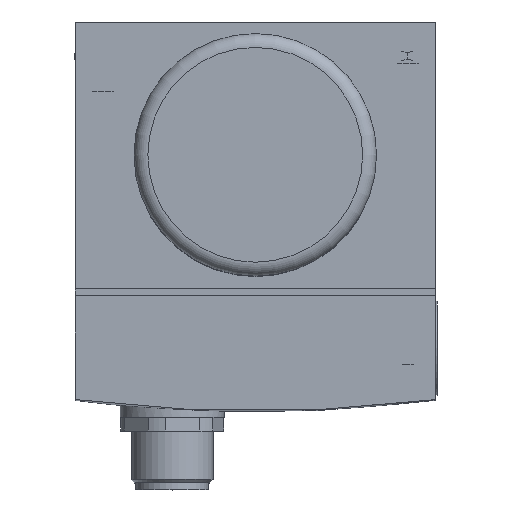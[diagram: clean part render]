
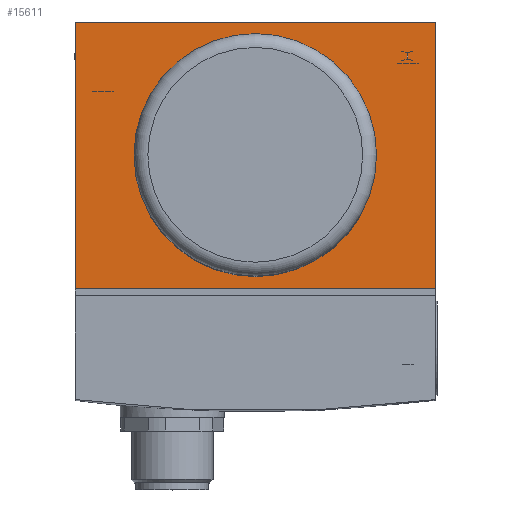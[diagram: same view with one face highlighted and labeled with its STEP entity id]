
A CAD part, top view. The second image highlights one B-rep face of the part: STEP entity #15611.
In plain terms, the highlighted planar face has unit normal (0, 0, 1).
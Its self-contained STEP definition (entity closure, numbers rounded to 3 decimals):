
#12384=CARTESIAN_POINT('',(26.0,-19.25,65.0));
#12385=VERTEX_POINT('',#12384);
#12392=CARTESIAN_POINT('',(-26.,-19.25,65.0));
#12393=VERTEX_POINT('',#12392);
#12394=CARTESIAN_POINT('',(26.0,-19.25,65.0));
#12395=DIRECTION('',(-1.0,0.0,0.0));
#12396=VECTOR('',#12395,52.0);
#12397=LINE('',#12394,#12396);
#12398=EDGE_CURVE('',#12385,#12393,#12397,.T.);
#12557=CARTESIAN_POINT('',(17.5,0.,65.0));
#12558=VERTEX_POINT('',#12557);
#12559=CARTESIAN_POINT('',(0.0,0.,65.0));
#12560=DIRECTION('',(0.0,0.0,-1.0));
#12561=DIRECTION('',(-1.0,0.0,0.0));
#12562=AXIS2_PLACEMENT_3D('',#12559,#12560,#12561);
#12563=CIRCLE('',#12562,17.5);
#12564=EDGE_CURVE('',#12558,#12558,#12563,.T.);
#13532=CARTESIAN_POINT('',(-26.,19.25,65.0));
#13533=VERTEX_POINT('',#13532);
#13534=CARTESIAN_POINT('',(-26.,-19.25,65.0));
#13535=DIRECTION('',(0.0,1.0,0.0));
#13536=VECTOR('',#13535,38.5);
#13537=LINE('',#13534,#13536);
#13538=EDGE_CURVE('',#12393,#13533,#13537,.T.);
#15409=CARTESIAN_POINT('',(26.0,19.25,65.0));
#15410=VERTEX_POINT('',#15409);
#15411=CARTESIAN_POINT('',(26.0,19.25,65.0));
#15412=DIRECTION('',(0.0,-1.0,0.0));
#15413=VECTOR('',#15412,38.5);
#15414=LINE('',#15411,#15413);
#15415=EDGE_CURVE('',#15410,#12385,#15414,.T.);
#15573=CARTESIAN_POINT('',(-26.,19.25,65.0));
#15574=DIRECTION('',(1.0,0.0,0.0));
#15575=VECTOR('',#15574,52.0);
#15576=LINE('',#15573,#15575);
#15577=EDGE_CURVE('',#13533,#15410,#15576,.T.);
#15597=CARTESIAN_POINT('',(0.,0.,65.0));
#15598=DIRECTION('',(0.0,0.0,1.0));
#15599=DIRECTION('',(1.0,0.0,0.0));
#15600=AXIS2_PLACEMENT_3D('',#15597,#15598,#15599);
#15601=PLANE('',#15600);
#15602=ORIENTED_EDGE('',*,*,#12398,.F.);
#15603=ORIENTED_EDGE('',*,*,#15415,.F.);
#15604=ORIENTED_EDGE('',*,*,#15577,.F.);
#15605=ORIENTED_EDGE('',*,*,#13538,.F.);
#15606=EDGE_LOOP('',(#15602,#15603,#15604,#15605));
#15607=FACE_OUTER_BOUND('',#15606,.T.);
#15608=ORIENTED_EDGE('',*,*,#12564,.T.);
#15609=EDGE_LOOP('',(#15608));
#15610=FACE_BOUND('',#15609,.T.);
#15611=ADVANCED_FACE('',(#15607,#15610),#15601,.T.);
